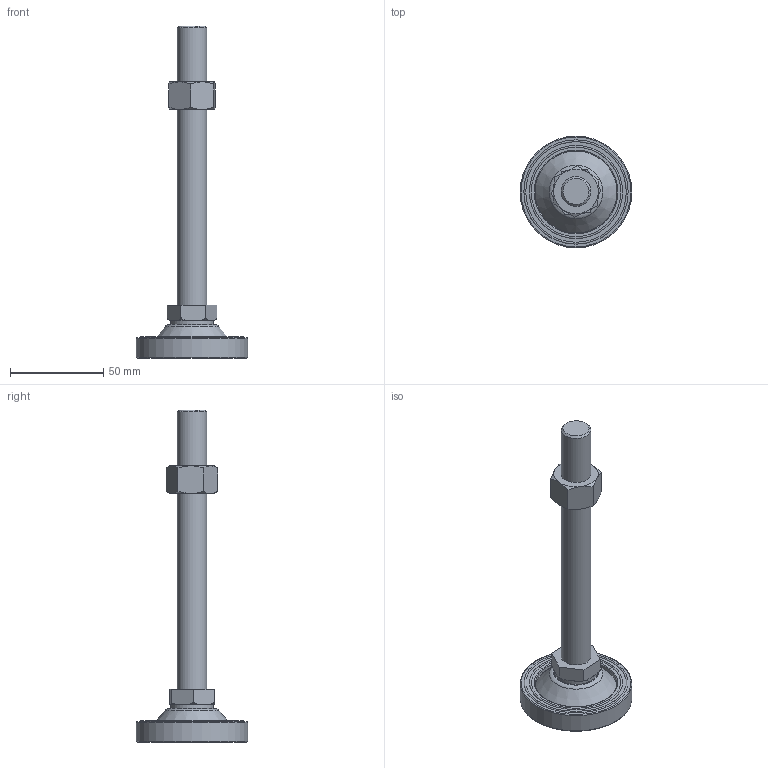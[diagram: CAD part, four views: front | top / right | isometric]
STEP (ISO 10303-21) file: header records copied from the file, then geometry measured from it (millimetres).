
FILE_DESCRIPTION((' '),'2;1');
FILE_NAME('Y:\00. A standard brand\06. 3D Modeling\외부전송용_STEP\LEVELLING FOOT(STEP)\A-PLR SERIES STEP\A-PLR-16-150.stp.stp','2011-11-22T18:41:38',(' '),(' '),' ','ACIS',' ');
FILE_SCHEMA(('CONFIG_CONTROL_DESIGN'));
Length unit declared in the file: millimetre
Products named in the file (1): Y:\00. A standard brand\06. 3D Modeling\외부전송용_STEP\LEVELLING FOOT(STEP)\A-PLR SERIES STEP\A-PLR-16-150.stp.stp
Bounding box: 60 x 60 x 178.31 mm (x, y, z)
Volume: 66879.6 mm3; surface area: 24198.7 mm2
Topology: 3 solids, 4 shells, 114 faces, 253 edges, 157 vertices
Faces by surface type: plane 55, cylinder 20, cone 17, torus 15, bspline 7
Full cylindrical faces by diameter (mm): 8 x1, 12 x2, 16 x3, 19.27 x1, 23 x1, 31 x1, 44 x2, 60 x1
Entity records: 3372 total; most frequent: CARTESIAN_POINT 970, DIRECTION 476, ORIENTED_EDGE 424, EDGE_CURVE 212, AXIS2_PLACEMENT_3D 192, EDGE_LOOP 160, VERTEX_POINT 149, FACE_OUTER_BOUND 114
